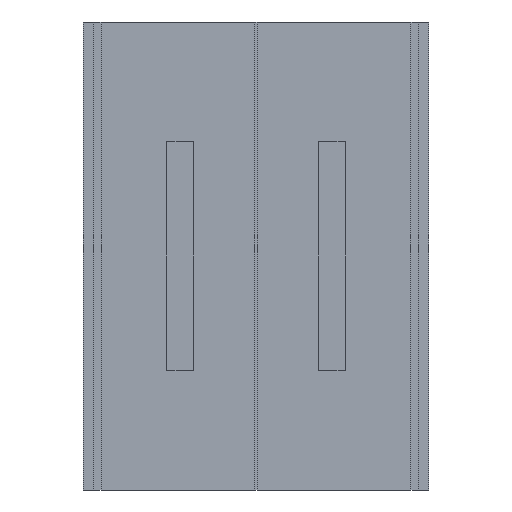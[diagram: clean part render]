
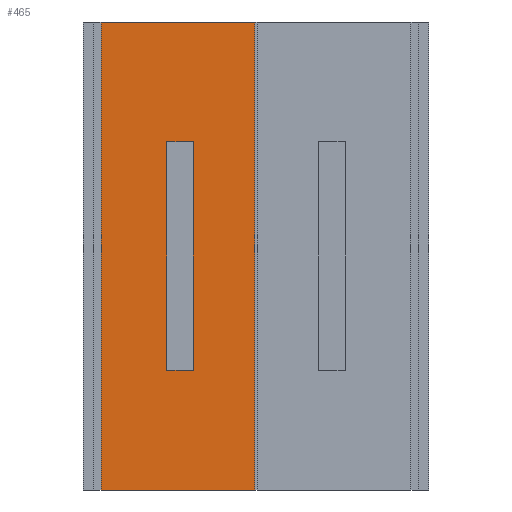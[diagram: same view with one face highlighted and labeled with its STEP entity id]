
A CAD part, left-side view. The second image highlights one B-rep face of the part: STEP entity #465.
In plain terms, the highlighted planar face has unit normal (-1, 0, 0).
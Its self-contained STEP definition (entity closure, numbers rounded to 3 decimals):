
#6 = ORIENTED_EDGE ( 'NONE', *, *, #945, .T. ) ;
#16 = LINE ( 'NONE', #1058, #76 ) ;
#25 = EDGE_CURVE ( 'NONE', #941, #1233, #483, .T. ) ;
#47 = PLANE ( 'NONE',  #849 ) ;
#50 = CARTESIAN_POINT ( 'NONE',  ( -325.25, 0.5, -92.5 ) ) ;
#76 = VECTOR ( 'NONE', #1186, 1000. ) ;
#145 = LINE ( 'NONE', #303, #406 ) ;
#173 = VECTOR ( 'NONE', #573, 1000. ) ;
#196 = DIRECTION ( 'NONE',  ( 0., -1., 0. ) ) ;
#248 = EDGE_CURVE ( 'NONE', #258, #1339, #727, .T. ) ;
#252 = LINE ( 'NONE', #297, #1177 ) ;
#258 = VERTEX_POINT ( 'NONE', #533 ) ;
#269 = FACE_OUTER_BOUND ( 'NONE', #769, .T. ) ;
#286 = EDGE_CURVE ( 'NONE', #581, #1065, #395, .T. ) ;
#295 = CARTESIAN_POINT ( 'NONE',  ( -325.25, 0.5, -92.5 ) ) ;
#297 = CARTESIAN_POINT ( 'NONE',  ( -325.25, 0.5, 92.5 ) ) ;
#303 = CARTESIAN_POINT ( 'NONE',  ( -325.25, 61.25, 92.5 ) ) ;
#312 = DIRECTION ( 'NONE',  ( 0., 0., -1. ) ) ;
#313 = FACE_BOUND ( 'NONE', #379, .T. ) ;
#360 = EDGE_CURVE ( 'NONE', #1337, #634, #16, .T. ) ;
#379 = EDGE_LOOP ( 'NONE', ( #1274, #972, #831, #472 ) ) ;
#384 = CARTESIAN_POINT ( 'NONE',  ( -325.25, 24.75, 45.25 ) ) ;
#395 = LINE ( 'NONE', #548, #806 ) ;
#406 = VECTOR ( 'NONE', #312, 1000. ) ;
#447 = VECTOR ( 'NONE', #196, 1000. ) ;
#465 = ADVANCED_FACE ( 'NONE', ( #313, #269 ), #47, .F. ) ;
#472 = ORIENTED_EDGE ( 'NONE', *, *, #1320, .F. ) ;
#483 = LINE ( 'NONE', #697, #173 ) ;
#518 = CARTESIAN_POINT ( 'NONE',  ( -325.25, 0.5, 92.5 ) ) ;
#533 = CARTESIAN_POINT ( 'NONE',  ( -325.25, 61.25, -92.5 ) ) ;
#541 = CARTESIAN_POINT ( 'NONE',  ( -325.25, 35.25, -45.25 ) ) ;
#546 = ORIENTED_EDGE ( 'NONE', *, *, #360, .F. ) ;
#548 = CARTESIAN_POINT ( 'NONE',  ( -325.25, 35.25, -45.25 ) ) ;
#573 = DIRECTION ( 'NONE',  ( 0., 0., 1. ) ) ;
#581 = VERTEX_POINT ( 'NONE', #673 ) ;
#585 = EDGE_CURVE ( 'NONE', #1065, #941, #1458, .T. ) ;
#619 = ORIENTED_EDGE ( 'NONE', *, *, #248, .T. ) ;
#625 = LINE ( 'NONE', #1017, #836 ) ;
#634 = VERTEX_POINT ( 'NONE', #796 ) ;
#673 = CARTESIAN_POINT ( 'NONE',  ( -325.25, 35.25, 45.25 ) ) ;
#697 = CARTESIAN_POINT ( 'NONE',  ( -325.25, 24.75, -45.25 ) ) ;
#727 = LINE ( 'NONE', #50, #1227 ) ;
#769 = EDGE_LOOP ( 'NONE', ( #619, #863, #546, #6 ) ) ;
#796 = CARTESIAN_POINT ( 'NONE',  ( -325.25, 0.5, 92.5 ) ) ;
#806 = VECTOR ( 'NONE', #1189, 1000. ) ;
#831 = ORIENTED_EDGE ( 'NONE', *, *, #286, .F. ) ;
#836 = VECTOR ( 'NONE', #1489, 1000. ) ;
#849 = AXIS2_PLACEMENT_3D ( 'NONE', #518, #1236, #901 ) ;
#863 = ORIENTED_EDGE ( 'NONE', *, *, #926, .F. ) ;
#901 = DIRECTION ( 'NONE',  ( 0., 0., -1. ) ) ;
#926 = EDGE_CURVE ( 'NONE', #634, #1339, #252, .T. ) ;
#941 = VERTEX_POINT ( 'NONE', #1145 ) ;
#945 = EDGE_CURVE ( 'NONE', #1337, #258, #145, .T. ) ;
#972 = ORIENTED_EDGE ( 'NONE', *, *, #585, .F. ) ;
#1013 = CARTESIAN_POINT ( 'NONE',  ( -325.25, 61.25, 92.5 ) ) ;
#1017 = CARTESIAN_POINT ( 'NONE',  ( -325.25, 35.25, 45.25 ) ) ;
#1058 = CARTESIAN_POINT ( 'NONE',  ( -325.25, 0.5, 92.5 ) ) ;
#1065 = VERTEX_POINT ( 'NONE', #541 ) ;
#1145 = CARTESIAN_POINT ( 'NONE',  ( -325.25, 24.75, -45.25 ) ) ;
#1177 = VECTOR ( 'NONE', #1378, 1000. ) ;
#1186 = DIRECTION ( 'NONE',  ( 0., -1., 0. ) ) ;
#1189 = DIRECTION ( 'NONE',  ( 0., 0., -1. ) ) ;
#1227 = VECTOR ( 'NONE', #1273, 1000. ) ;
#1233 = VERTEX_POINT ( 'NONE', #384 ) ;
#1236 = DIRECTION ( 'NONE',  ( 1., 0., 0. ) ) ;
#1273 = DIRECTION ( 'NONE',  ( 0., -1., 0. ) ) ;
#1274 = ORIENTED_EDGE ( 'NONE', *, *, #25, .F. ) ;
#1320 = EDGE_CURVE ( 'NONE', #1233, #581, #625, .T. ) ;
#1337 = VERTEX_POINT ( 'NONE', #1013 ) ;
#1339 = VERTEX_POINT ( 'NONE', #295 ) ;
#1377 = CARTESIAN_POINT ( 'NONE',  ( -325.25, 35.25, -45.25 ) ) ;
#1378 = DIRECTION ( 'NONE',  ( 0., 0., -1. ) ) ;
#1458 = LINE ( 'NONE', #1377, #447 ) ;
#1489 = DIRECTION ( 'NONE',  ( 0., 1., 0. ) ) ;
